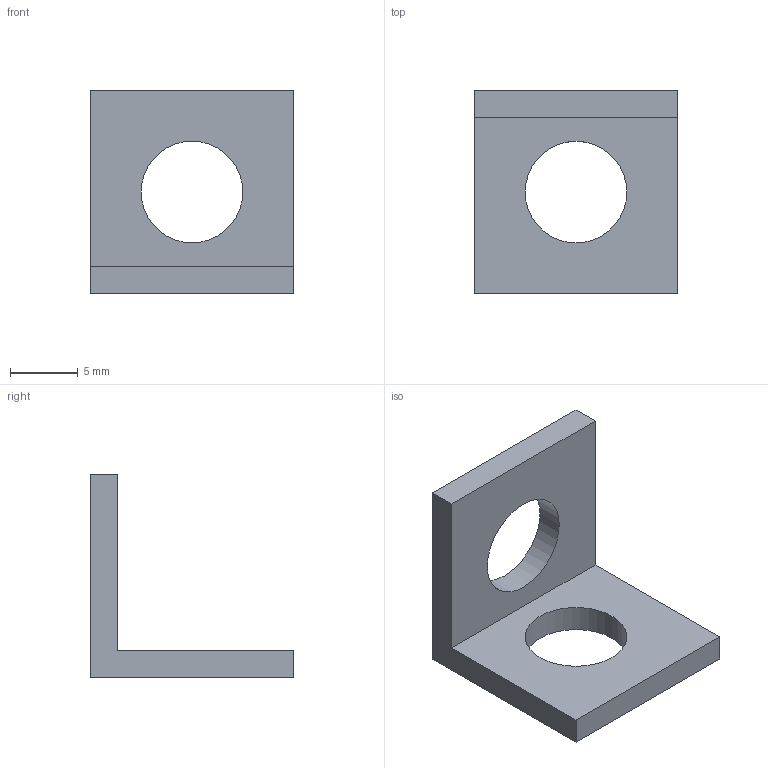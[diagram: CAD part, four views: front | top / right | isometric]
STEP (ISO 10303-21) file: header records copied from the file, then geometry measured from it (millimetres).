
FILE_DESCRIPTION(/* description */ (''),/* implementation_level */ '2;1');
FILE_NAME(/* name */ 'stess ana.stp',/* time_stamp */ '2026-08-21T11:36:57+05:30',/* author */ ('indrajit'),/* organization */ (''),/* preprocessor_version */ 'ST-DEVELOPER v20.1',/* originating_system */ 'Autodesk Inventor 2027',/* authorisation */ '');
FILE_SCHEMA (('AUTOMOTIVE_DESIGN { 1 0 10303 214 3 1 1 }'));
Length unit declared in the file: millimetre
Products named in the file (1): Part1
Bounding box: 15 x 15 x 15 mm (x, y, z)
Volume: 663.3 mm3; surface area: 929.5 mm2
Topology: 1 solids, 1 shells, 10 faces, 24 edges, 16 vertices
Faces by surface type: plane 8, cylinder 2
Full cylindrical faces by diameter (mm): 7.5 x2
Entity records: 343 total; most frequent: CARTESIAN_POINT 51, DIRECTION 50, ORIENTED_EDGE 48, EDGE_CURVE 24, LINE 20, VECTOR 20, VERTEX_POINT 16, AXIS2_PLACEMENT_3D 15
